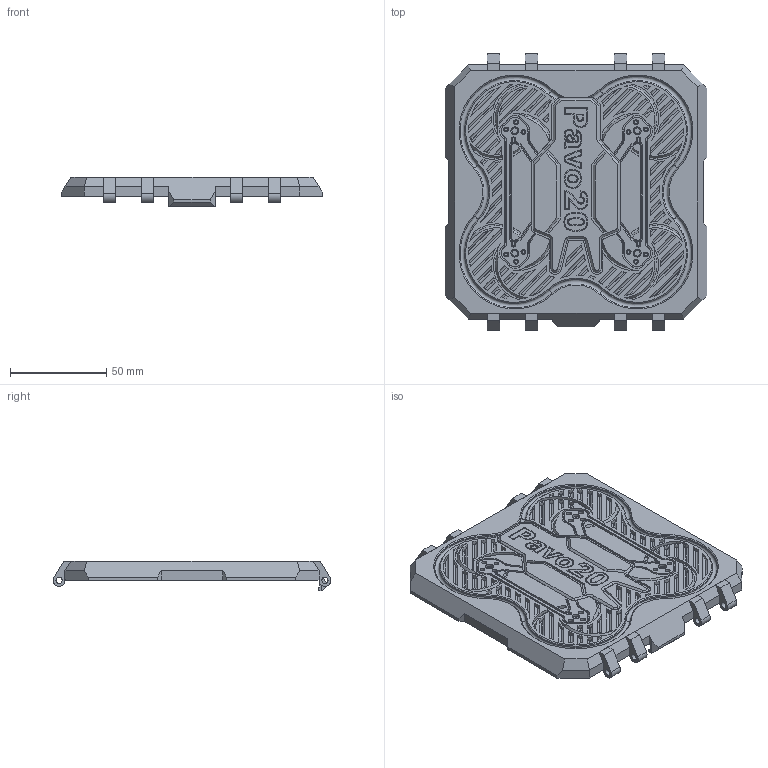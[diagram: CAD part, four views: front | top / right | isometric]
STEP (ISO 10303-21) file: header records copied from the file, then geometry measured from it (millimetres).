
FILE_DESCRIPTION(/* description */ (''),/* implementation_level */ '2;1');
FILE_NAME(/* name */ 'Pavo20CaseCapV2.step',/* time_stamp */ '2024-05-04T14:10:42+08:00',/* author */ (''),/* organization */ (''),/* preprocessor_version */ 'ST-DEVELOPER v20',/* originating_system */ 'Autodesk Translation Framework v12.20.1.177',/* authorisation */ '');
FILE_SCHEMA (('AUTOMOTIVE_DESIGN { 1 0 10303 214 3 1 1 }'));
Length unit declared in the file: millimetre
Products named in the file (1): Pavo20CaseCap
Bounding box: 136 x 144.4 x 15.49 mm (x, y, z)
Volume: 65347.8 mm3; surface area: 52399.7 mm2
Topology: 9 solids, 9 shells, 1384 faces, 3527 edges, 2276 vertices
Faces by surface type: plane 583, cylinder 488, bspline 192, torus 69, cone 52
Full cylindrical faces by diameter (mm): 2.5 x12, 3.2 x8, 4 x4
Entity records: 44390 total; most frequent: CARTESIAN_POINT 11958, ORIENTED_EDGE 7054, DIRECTION 6158, EDGE_CURVE 3527, VERTEX_POINT 2276, AXIS2_PLACEMENT_3D 2101, LINE 1956, VECTOR 1956
